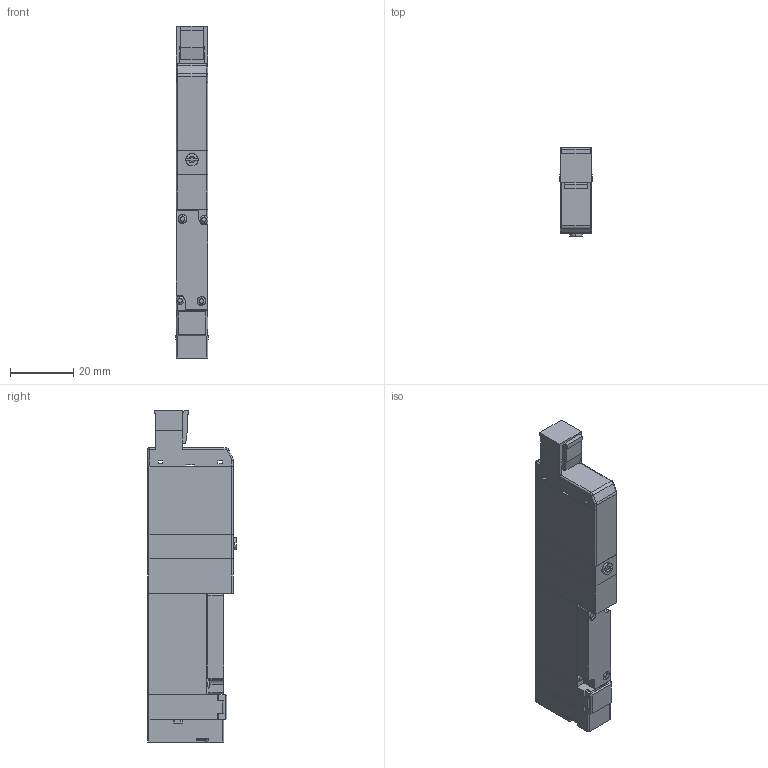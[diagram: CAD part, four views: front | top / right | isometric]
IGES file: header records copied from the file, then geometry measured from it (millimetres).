
Start section: ------------------------------------------------------------------------
Global section: file name: D:\ICADMX\tmp\trans3d_spg\CVICAD02.18204.F10T1-A1-PS_8504.igs; native system: spGate; preprocessor: ver12.6.6; author: Unknown; organization: Unknown; date: 200901.142405; units: millimetre
Bounding box: 10.2 x 28 x 105 mm (x, y, z)
Volume: 24338.5 mm3; surface area: 11505.5 mm2
Topology: 7 solids, 7 shells, 314 faces, 824 edges, 536 vertices
Faces by surface type: bspline 314
